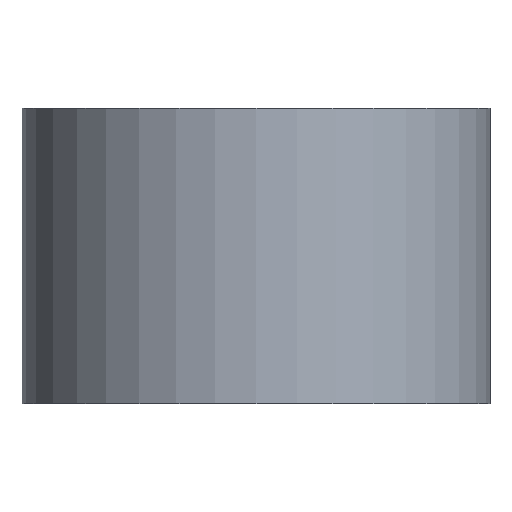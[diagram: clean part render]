
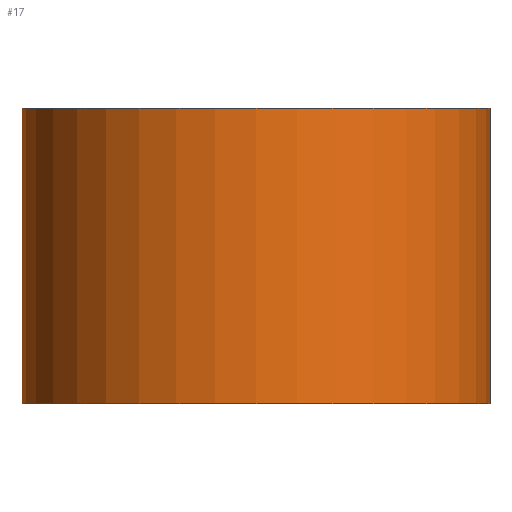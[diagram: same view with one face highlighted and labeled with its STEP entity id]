
A CAD part, front view. The second image highlights one B-rep face of the part: STEP entity #17.
In plain terms, the highlighted cylindrical face has radius 76 mm (diameter 152 mm), a full revolution.
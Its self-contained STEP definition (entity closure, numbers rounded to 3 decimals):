
#17 = ADVANCED_FACE('',(#18),#31,.T.);
#18 = FACE_BOUND('',#19,.T.);
#19 = EDGE_LOOP('',(#20,#54,#77,#104));
#20 = ORIENTED_EDGE('',*,*,#21,.F.);
#21 = EDGE_CURVE('',#22,#22,#24,.T.);
#22 = VERTEX_POINT('',#23);
#23 = CARTESIAN_POINT('',(76.,0.,116.));
#24 = SURFACE_CURVE('',#25,(#30,#42),.PCURVE_S1.);
#25 = CIRCLE('',#26,76.);
#26 = AXIS2_PLACEMENT_3D('',#27,#28,#29);
#27 = CARTESIAN_POINT('',(0.,0.,116.));
#28 = DIRECTION('',(0.,0.,1.));
#29 = DIRECTION('',(1.,0.,-0.));
#30 = PCURVE('',#31,#36);
#31 = CYLINDRICAL_SURFACE('',#32,76.);
#32 = AXIS2_PLACEMENT_3D('',#33,#34,#35);
#33 = CARTESIAN_POINT('',(0.,0.,20.));
#34 = DIRECTION('',(0.,0.,1.));
#35 = DIRECTION('',(1.,0.,-0.));
#36 = DEFINITIONAL_REPRESENTATION('',(#37),#41);
#37 = LINE('',#38,#39);
#38 = CARTESIAN_POINT('',(0.,96.));
#39 = VECTOR('',#40,1.);
#40 = DIRECTION('',(1.,0.));
#41 = ( GEOMETRIC_REPRESENTATION_CONTEXT(2) 
PARAMETRIC_REPRESENTATION_CONTEXT() REPRESENTATION_CONTEXT('2D SPACE',''
  ) );
#42 = PCURVE('',#43,#48);
#43 = PLANE('',#44);
#44 = AXIS2_PLACEMENT_3D('',#45,#46,#47);
#45 = CARTESIAN_POINT('',(0.,0.,116.));
#46 = DIRECTION('',(0.,0.,1.));
#47 = DIRECTION('',(1.,0.,-0.));
#48 = DEFINITIONAL_REPRESENTATION('',(#49),#53);
#49 = CIRCLE('',#50,76.);
#50 = AXIS2_PLACEMENT_2D('',#51,#52);
#51 = CARTESIAN_POINT('',(0.,0.));
#52 = DIRECTION('',(1.,0.));
#53 = ( GEOMETRIC_REPRESENTATION_CONTEXT(2) 
PARAMETRIC_REPRESENTATION_CONTEXT() REPRESENTATION_CONTEXT('2D SPACE',''
  ) );
#54 = ORIENTED_EDGE('',*,*,#55,.F.);
#55 = EDGE_CURVE('',#56,#22,#58,.T.);
#56 = VERTEX_POINT('',#57);
#57 = CARTESIAN_POINT('',(76.,0.,20.));
#58 = SEAM_CURVE('',#59,(#63,#70),.PCURVE_S1.);
#59 = LINE('',#60,#61);
#60 = CARTESIAN_POINT('',(76.,0.,20.));
#61 = VECTOR('',#62,1.);
#62 = DIRECTION('',(0.,0.,1.));
#63 = PCURVE('',#31,#64);
#64 = DEFINITIONAL_REPRESENTATION('',(#65),#69);
#65 = LINE('',#66,#67);
#66 = CARTESIAN_POINT('',(6.283,-0.));
#67 = VECTOR('',#68,1.);
#68 = DIRECTION('',(0.,1.));
#69 = ( GEOMETRIC_REPRESENTATION_CONTEXT(2) 
PARAMETRIC_REPRESENTATION_CONTEXT() REPRESENTATION_CONTEXT('2D SPACE',''
  ) );
#70 = PCURVE('',#31,#71);
#71 = DEFINITIONAL_REPRESENTATION('',(#72),#76);
#72 = LINE('',#73,#74);
#73 = CARTESIAN_POINT('',(0.,-0.));
#74 = VECTOR('',#75,1.);
#75 = DIRECTION('',(0.,1.));
#76 = ( GEOMETRIC_REPRESENTATION_CONTEXT(2) 
PARAMETRIC_REPRESENTATION_CONTEXT() REPRESENTATION_CONTEXT('2D SPACE',''
  ) );
#77 = ORIENTED_EDGE('',*,*,#78,.T.);
#78 = EDGE_CURVE('',#56,#56,#79,.T.);
#79 = SURFACE_CURVE('',#80,(#85,#92),.PCURVE_S1.);
#80 = CIRCLE('',#81,76.);
#81 = AXIS2_PLACEMENT_3D('',#82,#83,#84);
#82 = CARTESIAN_POINT('',(0.,0.,20.));
#83 = DIRECTION('',(0.,0.,1.));
#84 = DIRECTION('',(1.,0.,-0.));
#85 = PCURVE('',#31,#86);
#86 = DEFINITIONAL_REPRESENTATION('',(#87),#91);
#87 = LINE('',#88,#89);
#88 = CARTESIAN_POINT('',(0.,0.));
#89 = VECTOR('',#90,1.);
#90 = DIRECTION('',(1.,0.));
#91 = ( GEOMETRIC_REPRESENTATION_CONTEXT(2) 
PARAMETRIC_REPRESENTATION_CONTEXT() REPRESENTATION_CONTEXT('2D SPACE',''
  ) );
#92 = PCURVE('',#93,#98);
#93 = PLANE('',#94);
#94 = AXIS2_PLACEMENT_3D('',#95,#96,#97);
#95 = CARTESIAN_POINT('',(0.,0.,20.));
#96 = DIRECTION('',(0.,0.,1.));
#97 = DIRECTION('',(1.,0.,-0.));
#98 = DEFINITIONAL_REPRESENTATION('',(#99),#103);
#99 = CIRCLE('',#100,76.);
#100 = AXIS2_PLACEMENT_2D('',#101,#102);
#101 = CARTESIAN_POINT('',(0.,0.));
#102 = DIRECTION('',(1.,0.));
#103 = ( GEOMETRIC_REPRESENTATION_CONTEXT(2) 
PARAMETRIC_REPRESENTATION_CONTEXT() REPRESENTATION_CONTEXT('2D SPACE',''
  ) );
#104 = ORIENTED_EDGE('',*,*,#55,.T.);
